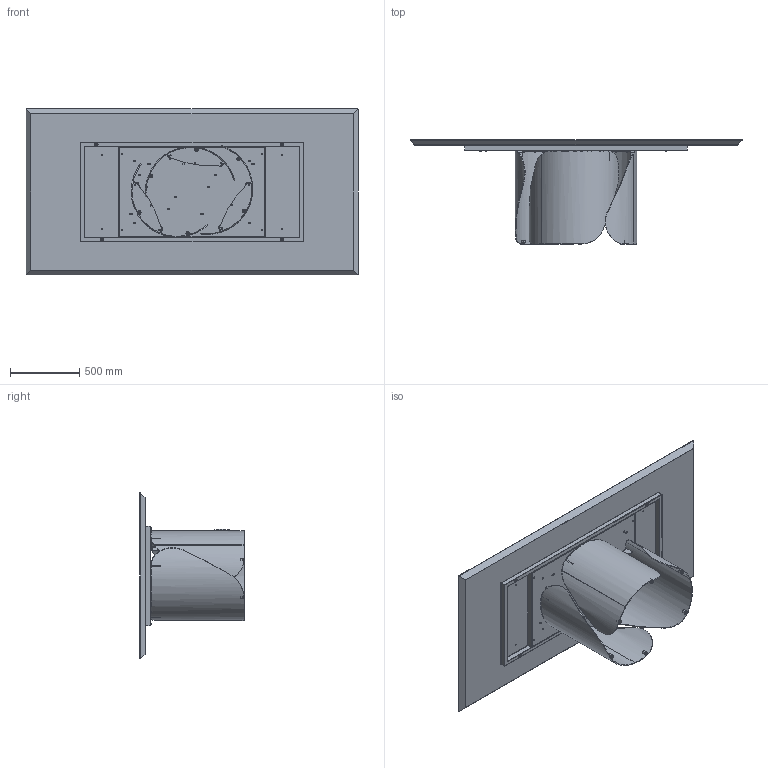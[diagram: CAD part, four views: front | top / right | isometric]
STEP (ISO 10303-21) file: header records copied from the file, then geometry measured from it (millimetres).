
FILE_DESCRIPTION (( 'STEP AP203' ), '1' );
FILE_NAME ('ON23W.STEP', '2024-08-06T13:52:32', ( '' ), ( '' ), 'SwSTEP 2.0', 'SolidWorks 2022', '' );
FILE_SCHEMA (( 'CONFIG_CONTROL_DESIGN' ));
Length unit declared in the file: millimetre
Products named in the file (15): M8xXXmm_M8x20mm; OND000000_02-00-CILINDRO DI FISSAGGIO Ø25X17 M8; TTAV0601_02-00-VASSOIO TAVOLI PLAI ONDA NOA 240; COLLO TELAIO UNIVERSALE TTAV0601 CON FERRAMENTA_FERRAMENTA MTG TOP LEGNO-MARMO-KING; COLLO BASE ONDA SINGOLA CON FERRAMENTA; TTAV0601_01-00-STRUTTURA X TAVOLI PLAI ONDA NOA 240; M8xXXmm_M8x55mm; W2XCMXX-00-Piani Rettangolari in legno_2400 x 1200; OND000000-03-ONDA BASE GREZZA; OND000000_03-00-LAMIERA CURVATA PRINCIPALE_OND00000X-00-ONDA BASE GREZZA PROTOTIPO; rondella M8_8X24; OND000000_01-00-PIASTRA SUPERIORE BASE ONDA; TTAV0601-00-TELAIO X TAVOLI PLAI ONDA NOA 240cm_TTAV06; ON23W; PIEDINO PER ONDA
Assembly tree (47 placements, depth 4):
  ON23W
    COLLO TELAIO UNIVERSALE TTAV0601 CON FERRAMENTA_FERRAMENTA MTG TOP LEGNO-MARMO-KING
      TTAV0601-00-TELAIO X TAVOLI PLAI ONDA NOA 240cm_TTAV06
        TTAV0601_02-00-VASSOIO TAVOLI PLAI ONDA NOA 240
        TTAV0601_01-00-STRUTTURA X TAVOLI PLAI ONDA NOA 240
      rondella M8_8X24  x4
      M8xXXmm_M8x55mm  x4
    COLLO BASE ONDA SINGOLA CON FERRAMENTA  x3
      OND000000-03-ONDA BASE GREZZA
        OND000000_03-00-LAMIERA CURVATA PRINCIPALE_OND00000X-00-ONDA BASE GREZZA PROTOTIPO
        OND000000_01-00-PIASTRA SUPERIORE BASE ONDA
        OND000000_02-00-CILINDRO DI FISSAGGIO Ø25X17 M8  x2
      PIEDINO PER ONDA
    rondella M8_8X24  x12
    M8xXXmm_M8x20mm  x12
    W2XCMXX-00-Piani Rettangolari in legno_2400 x 1200
Bounding box: 2400 x 754 x 1200 mm (x, y, z)
Volume: 117957684 mm3; surface area: 12178641.3 mm2
Topology: 59 solids, 59 shells, 1735 faces, 3959 edges, 2353 vertices
Faces by surface type: plane 626, cylinder 539, cone 286, torus 216, bspline 60, sphere 8
Entity records: 23798 total; most frequent: CARTESIAN_POINT 5323, DIRECTION 3479, ORIENTED_EDGE 3198, EDGE_CURVE 1599, AXIS2_PLACEMENT_3D 1309, VERTEX_POINT 977, LINE 861, VECTOR 861
